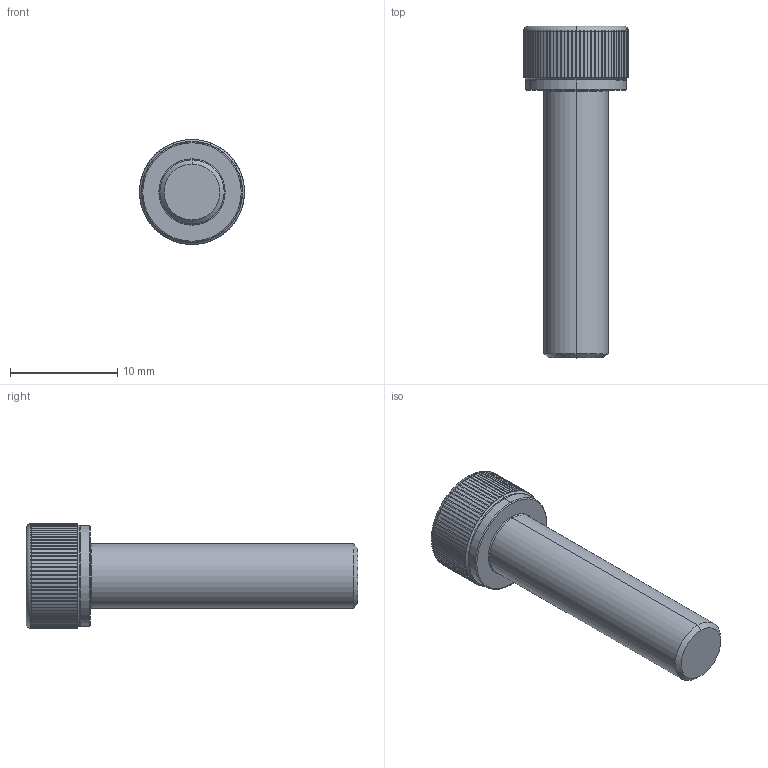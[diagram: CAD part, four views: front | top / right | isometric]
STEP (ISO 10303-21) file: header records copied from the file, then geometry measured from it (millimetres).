
FILE_DESCRIPTION (( 'STEP AP203' ), '1' );
FILE_NAME ('LGDT-304-M6x25.STEP', '2026-08-10T04:37:37', ( '' ), ( '' ), 'SwSTEP 2.0', 'SolidWorks 2020', '' );
FILE_SCHEMA (( 'CONFIG_CONTROL_DESIGN' ));
Length unit declared in the file: millimetre
Products named in the file (1): LGDT-304-M6x25
Bounding box: 9.8 x 31 x 9.8 mm (x, y, z)
Volume: 1073.5 mm3; surface area: 849 mm2
Topology: 1 solids, 1 shells, 216 faces, 612 edges, 400 vertices
Faces by surface type: cylinder 187, cone 11, plane 10, torus 8
Entity records: 8880 total; most frequent: CARTESIAN_POINT 3409, ORIENTED_EDGE 1224, DIRECTION 1048, EDGE_CURVE 612, AXIS2_PLACEMENT_3D 422, VERTEX_POINT 400, EDGE_LOOP 218, FACE_OUTER_BOUND 216
